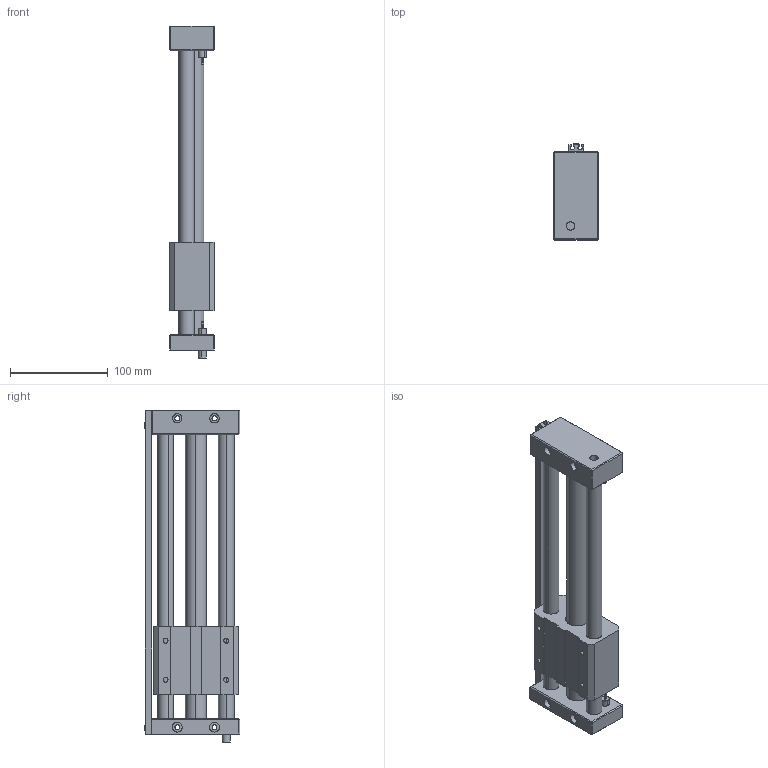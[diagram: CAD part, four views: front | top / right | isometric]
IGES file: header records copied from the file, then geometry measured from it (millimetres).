
Start section: SolidWorks IGES file using analytic representation for surfaces
Global section: file name: D:\Documents de SGA\Pieces 2D et 3D\GRU\iges\Assemblage3.IGS; native system: SolidWorks 2010; preprocessor: SolidWorks 2010; author: SGA; date: 111216.103053; units: millimetre
Bounding box: 45 x 97.99 x 339.16 mm (x, y, z)
Surface area: 146127.2 mm2 (no closed solid volume)
Topology: 0 solids, 0 shells, 211 faces, 3650 edges, 3650 vertices
Faces by surface type: bspline 111, revolution 100
